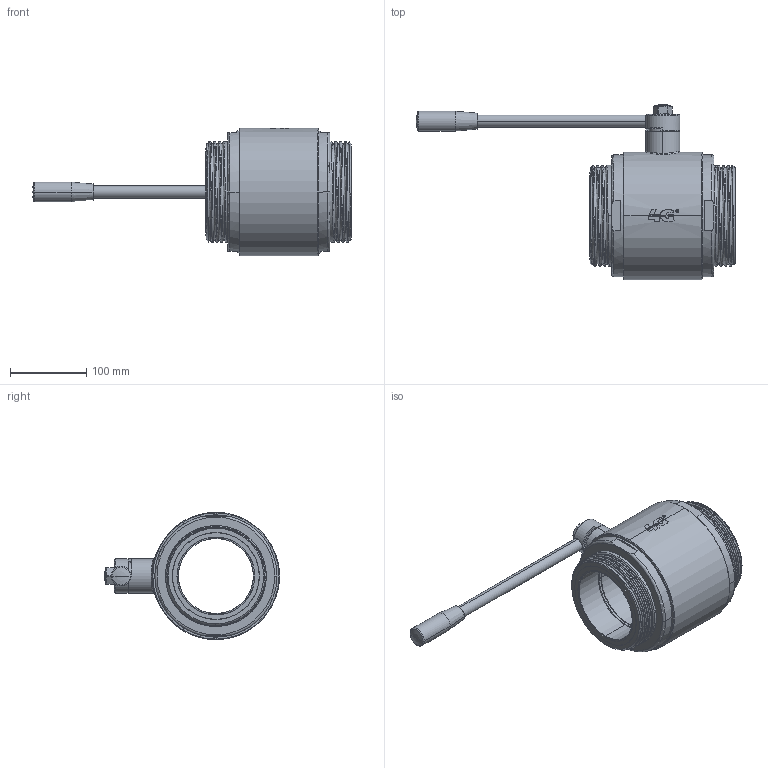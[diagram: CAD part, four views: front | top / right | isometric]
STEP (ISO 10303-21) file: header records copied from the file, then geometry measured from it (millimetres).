
FILE_DESCRIPTION((''),'2;1');
FILE_NAME('10014465510','2017-03-28T',('UFFICIO TECNICO'),('CDM Tecnoconsulting'),'CREO PARAMETRIC BY PTC INC, 2015290','CREO PARAMETRIC BY PTC INC, 2015290','');
FILE_SCHEMA(('CONFIG_CONTROL_DESIGN'));
Length unit declared in the file: millimetre
Products named in the file (1): 10014465510
Bounding box: 417.8 x 229.5 x 167 mm (x, y, z)
Surface area: 226821.6 mm2 (no closed solid volume)
Topology: 0 solids, 37 shells, 226 faces, 1059 edges, 848 vertices
Faces by surface type: plane 74, cylinder 57, cone 51, bspline 24, torus 12, extrusion 6, sphere 2
Entity records: 20735 total; most frequent: CARTESIAN_POINT 12138, ORIENTED_EDGE 1492, DIRECTION 1450, EDGE_CURVE 1057, VERTEX_POINT 848, VECTOR 528, LINE 522, AXIS2_PLACEMENT_3D 461
